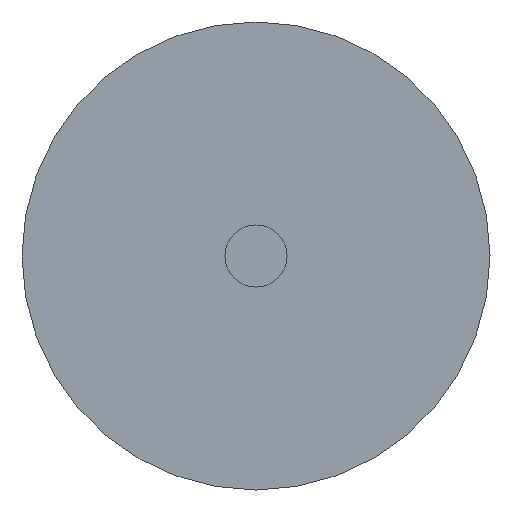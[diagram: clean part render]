
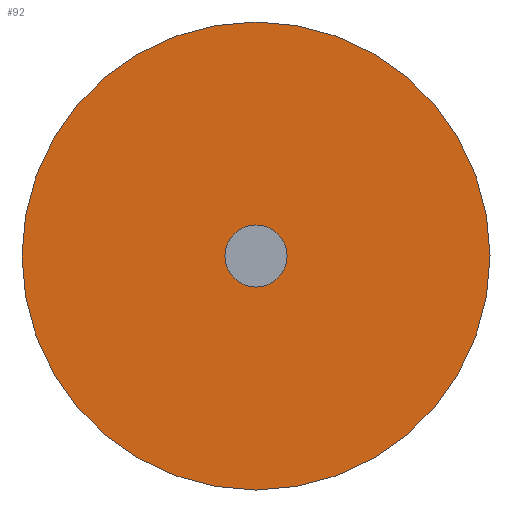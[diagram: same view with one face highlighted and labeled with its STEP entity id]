
A CAD part, left-side view. The second image highlights one B-rep face of the part: STEP entity #92.
In plain terms, the highlighted planar face has unit normal (-1, 0, 0).
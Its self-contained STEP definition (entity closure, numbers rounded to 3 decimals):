
#16=PLANE('',#107);
#26=FACE_OUTER_BOUND('',#36,.T.);
#36=EDGE_LOOP('',(#66));
#47=CIRCLE('',#106,3.43);
#53=VERTEX_POINT('',#155);
#59=EDGE_CURVE('',#53,#53,#47,.T.);
#66=ORIENTED_EDGE('',*,*,#59,.T.);
#92=ADVANCED_FACE('',(#26),#16,.F.);
#106=AXIS2_PLACEMENT_3D('',#156,#125,#126);
#107=AXIS2_PLACEMENT_3D('',#157,#127,#128);
#125=DIRECTION('center_axis',(-1.,0.,0.));
#126=DIRECTION('ref_axis',(0.,-1.,0.));
#127=DIRECTION('center_axis',(1.,0.,0.));
#128=DIRECTION('ref_axis',(0.,0.,-1.));
#155=CARTESIAN_POINT('',(0.,3.43,0.));
#156=CARTESIAN_POINT('Origin',(0.,0.,0.));
#157=CARTESIAN_POINT('Origin',(0.,0.,0.));
